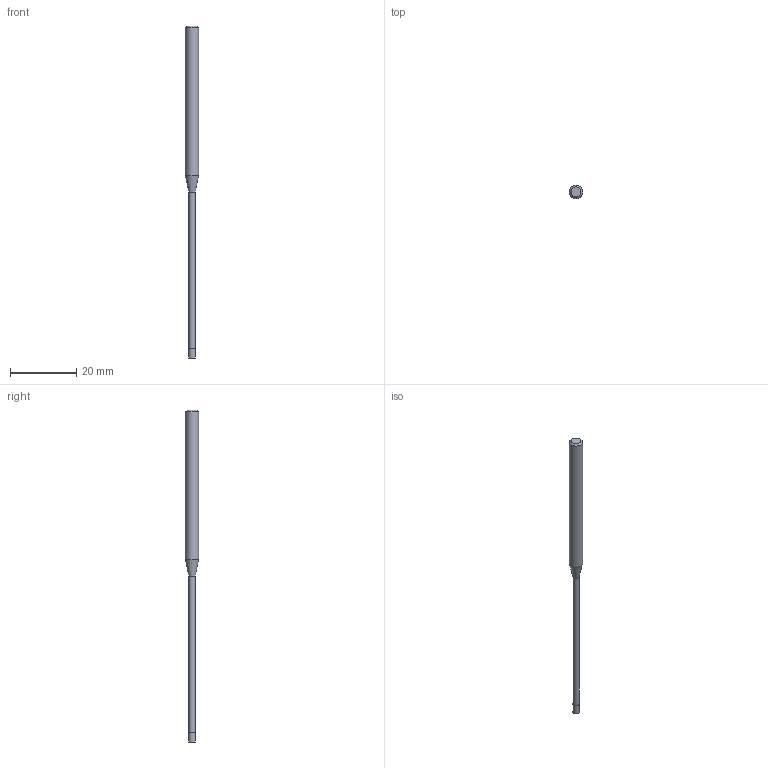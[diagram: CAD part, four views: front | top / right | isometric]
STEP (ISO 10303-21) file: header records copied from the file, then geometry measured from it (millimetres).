
FILE_DESCRIPTION((''),'2;1');
FILE_NAME('C:\Users\nsx150\AppData\Local\Temp\Mastercam 2021\17T8Q8S9EB\TEMP.step','2021-04-21T14:27:55',(''),(''),'STEP Write','Mastercam 2021 ... CNC Software, Inc.','');
FILE_SCHEMA(('AUTOMOTIVE_DESIGN'));
Length unit declared in the file: millimetre
Products named in the file (1): None
Bounding box: 4 x 4 x 100 mm (x, y, z)
Volume: 749.3 mm3; surface area: 936.7 mm2
Topology: 2 solids, 2 shells, 9 faces, 12 edges, 7 vertices
Faces by surface type: plane 4, cylinder 3, cone 2
Full cylindrical faces by diameter (mm): 1.94 x1, 2 x1, 4 x1
Entity records: 211 total; most frequent: DIRECTION 36, CARTESIAN_POINT 25, AXIS2_PLACEMENT_3D 18, ORIENTED_EDGE 14, EDGE_LOOP 14, STYLED_ITEM 12, ADVANCED_FACE 9, FACE_BOUND 8
